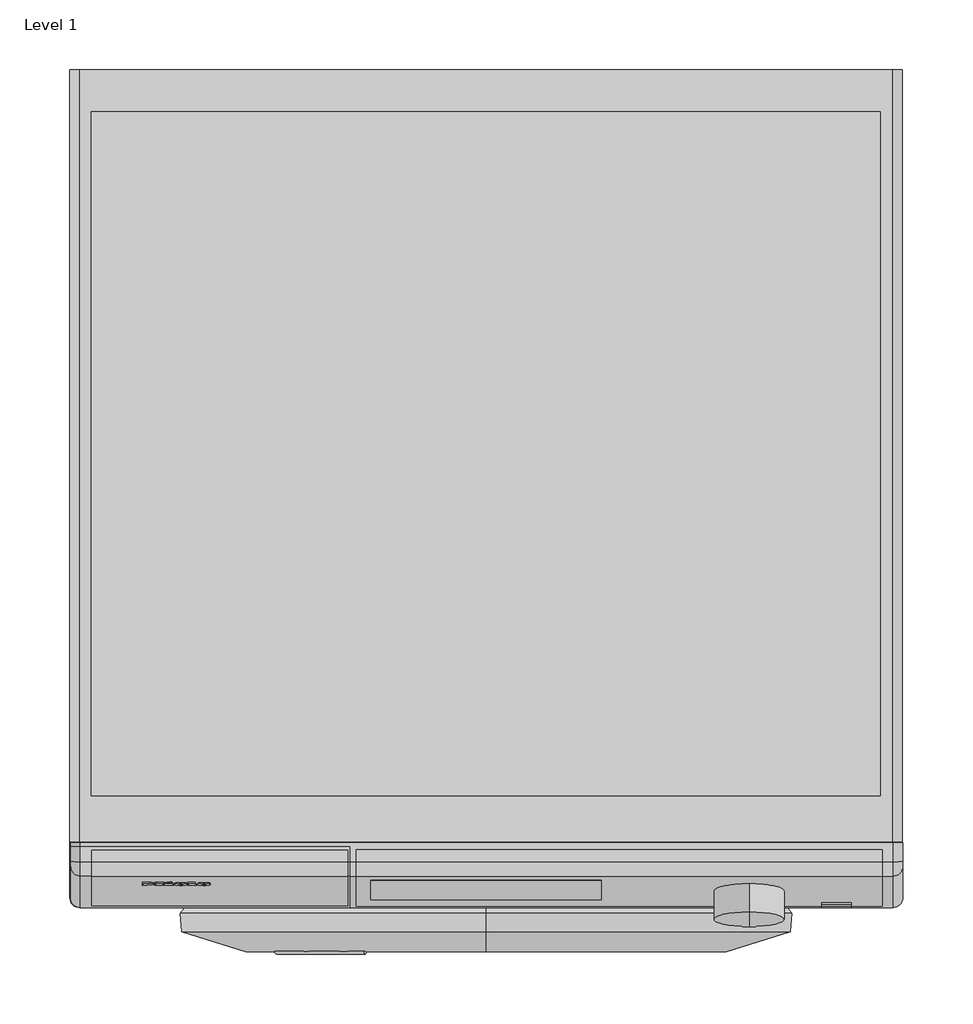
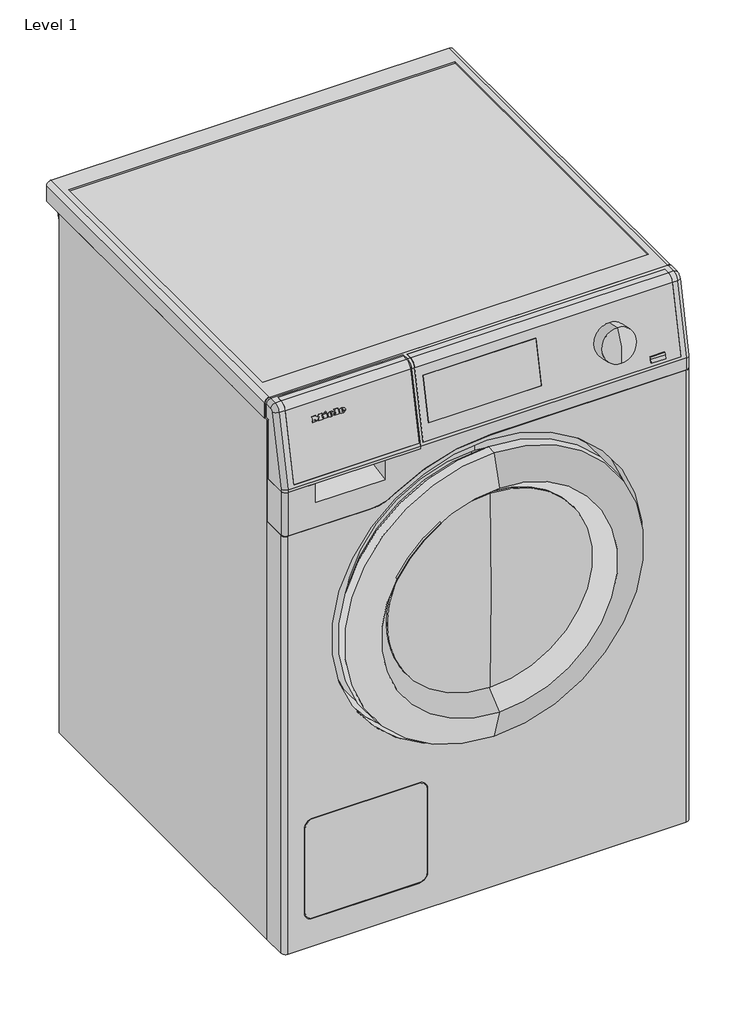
# One storey: 1 proxy.
"""IFC4 building model written with IfcOpenShell, lengths in millimetres."""

from ifc_helpers import new_model, si_unit, origin, place, context, project, spatial, transform, mapped, element, save
from components import specialty_equipment_1517acb9, specialty_equipment_c5ddfba9

model = new_model("IFC4")

# Units and contexts
model_context = context("Model", 3, world=origin())
ifc_project = project(units=[si_unit("LENGTHUNIT", "METRE", prefix="MILLI")], contexts=[model_context])

# Site, building, storey
site = spatial("IfcSite", under=ifc_project)
building = spatial("IfcBuilding", under=site)
storey = spatial("IfcBuildingStorey", under=building, Name="Level 1", Elevation=0.0)

# Proxy
placement = place(None, origin())
specialty_equipment_shape = specialty_equipment_1517acb9(model_context)
specialty_equipment_2_shape = specialty_equipment_c5ddfba9(model_context)
element("IfcBuildingElementProxy", 1, Name="11272430_D_PWM300DP_LWSmartBiz : 51300001_D_11272430_PWM300DP_LWSmartBiz", ObjectType="11272430_D_PWM300DP_LWSmartBiz : 51300001_D_11272430_PWM300DP_LWSmartBiz", at=placement, inside=storey, context=model_context, shape_type="MappedRepresentation", body=[
    mapped(specialty_equipment_shape, transform((0.0, 0.0, 0.0), x_axis=(1.0, 0.0, 0.0), y_axis=(0.0, 1.0, 0.0), z_axis=(0.0, 0.0, 1.0))),
    mapped(specialty_equipment_2_shape, transform((0.0, 0.0, 0.0), x_axis=(1.0, 0.0, 0.0), y_axis=(0.0, 1.0, 0.0), z_axis=(0.0, 0.0, 1.0))),
])

save(model, "model.ifc")
